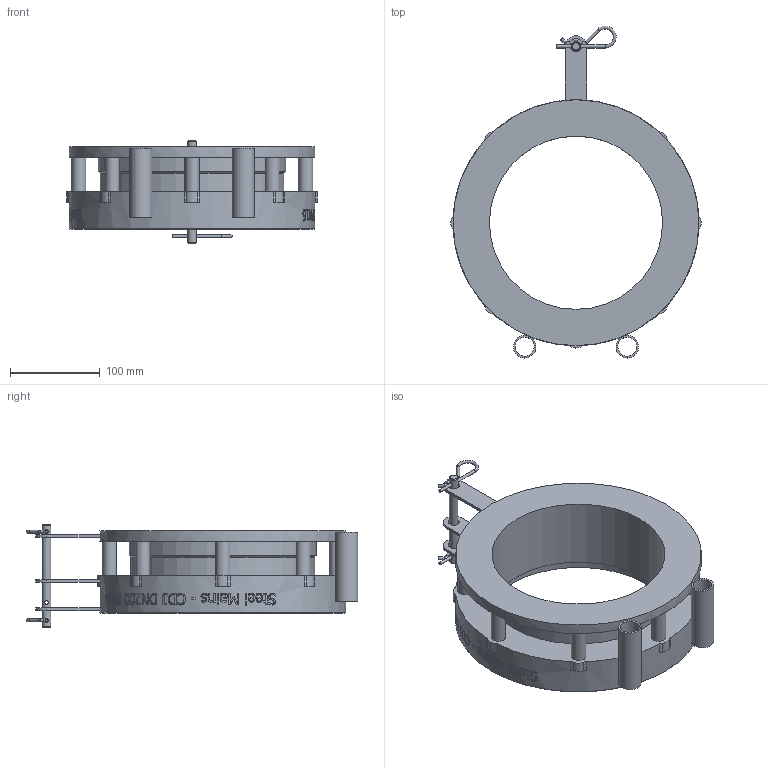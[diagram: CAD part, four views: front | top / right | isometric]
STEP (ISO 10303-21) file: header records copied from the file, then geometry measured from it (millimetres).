
FILE_DESCRIPTION(/* description */ (''),/* implementation_level */ '2;1');
FILE_NAME(/* name */ 'C:\Vault\Designs\Somerton\196\196-7 Models\Marketing Files\SteelMains - CDJ DN200 PN16 - (196-7T rev C).stp',/* time_stamp */ '2025-08-26T11:18:16+10:00',/* author */ ('Sam.Cavallaro'),/* organization */ (''),/* preprocessor_version */ 'ST-DEVELOPER v18.1',/* originating_system */ 'Autodesk Inventor 2021',/* authorisation */ '');
FILE_SCHEMA (('AUTOMOTIVE_DESIGN { 1 0 10303 214 3 1 1 }'));
Length unit declared in the file: millimetre
Products named in the file (1): SPS_ENG-084434
Bounding box: 279 x 369.85 x 115 mm (x, y, z)
Volume: 1800979.6 mm3; surface area: 291151.8 mm2
Topology: 6 solids, 6 shells, 836 faces, 2276 edges, 1519 vertices
Faces by surface type: bspline 386, plane 307, cylinder 131, torus 8, cone 4
Full cylindrical faces by diameter (mm): 3.2 x10, 4 x3, 10 x1, 12 x3, 16 x8, 21 x2, 25 x2, 193 x1, 205 x1, 209 x2, 274 x2
Entity records: 36632 total; most frequent: CARTESIAN_POINT 17402, ORIENTED_EDGE 4560, DIRECTION 2837, EDGE_CURVE 2280, VERTEX_POINT 1523, LINE 1041, VECTOR 1041, EDGE_LOOP 937
